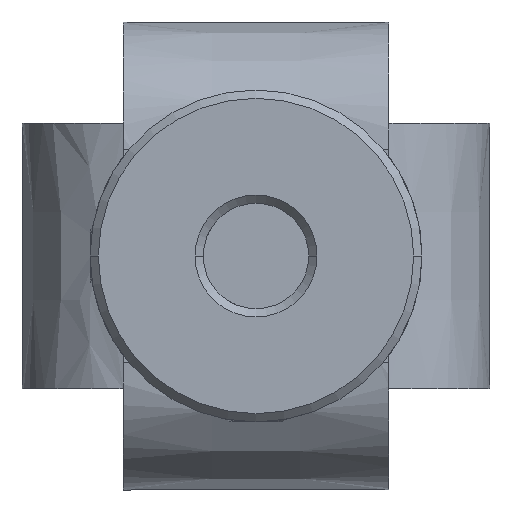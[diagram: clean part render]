
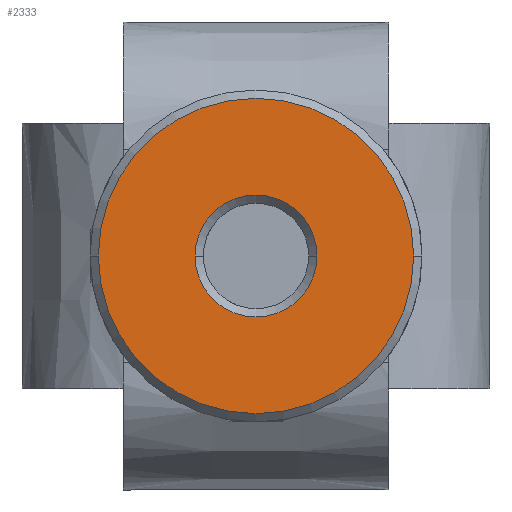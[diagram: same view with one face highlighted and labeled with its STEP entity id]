
A CAD part, front view. The second image highlights one B-rep face of the part: STEP entity #2333.
In plain terms, the highlighted planar face has unit normal (0, -1, 0).
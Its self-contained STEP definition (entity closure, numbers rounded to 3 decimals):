
#53 = CARTESIAN_POINT ( 'NONE',  ( 0., -35.24, 0. ) ) ;
#134 = CIRCLE ( 'NONE', #483, 9.5 ) ;
#251 = DIRECTION ( 'NONE',  ( 0., 1., 0. ) ) ;
#483 = AXIS2_PLACEMENT_3D ( 'NONE', #2738, #4009, #1507 ) ;
#667 = DIRECTION ( 'NONE',  ( -1., 0., 0. ) ) ;
#834 = ORIENTED_EDGE ( 'NONE', *, *, #4651, .T. ) ;
#1103 = CIRCLE ( 'NONE', #7228, 9.5 ) ;
#1426 = CARTESIAN_POINT ( 'NONE',  ( 0., -35.24, 0. ) ) ;
#1507 = DIRECTION ( 'NONE',  ( -1., 0., 0. ) ) ;
#1522 = VERTEX_POINT ( 'NONE', #1953 ) ;
#1679 = VERTEX_POINT ( 'NONE', #7586 ) ;
#1773 = PLANE ( 'NONE',  #2868 ) ;
#1777 = EDGE_LOOP ( 'NONE', ( #834, #4755 ) ) ;
#1947 = CARTESIAN_POINT ( 'NONE',  ( -3.675, -35.24, 0. ) ) ;
#1949 = EDGE_CURVE ( 'NONE', #7474, #6320, #5006, .T. ) ;
#1953 = CARTESIAN_POINT ( 'NONE',  ( -9.5, -35.24, 0. ) ) ;
#1974 = CARTESIAN_POINT ( 'NONE',  ( 0., -35.24, 0. ) ) ;
#2057 = AXIS2_PLACEMENT_3D ( 'NONE', #1426, #251, #3202 ) ;
#2160 = FACE_OUTER_BOUND ( 'NONE', #4232, .T. ) ;
#2333 = ADVANCED_FACE ( 'NONE', ( #5361, #2160 ), #1773, .T. ) ;
#2738 = CARTESIAN_POINT ( 'NONE',  ( 0., -35.24, 0. ) ) ;
#2868 = AXIS2_PLACEMENT_3D ( 'NONE', #53, #4261, #667 ) ;
#3118 = DIRECTION ( 'NONE',  ( 0., -1., 0. ) ) ;
#3202 = DIRECTION ( 'NONE',  ( -1., 0., 0. ) ) ;
#4009 = DIRECTION ( 'NONE',  ( 0., -1., 0. ) ) ;
#4033 = ORIENTED_EDGE ( 'NONE', *, *, #6907, .T. ) ;
#4232 = EDGE_LOOP ( 'NONE', ( #5430, #4033 ) ) ;
#4261 = DIRECTION ( 'NONE',  ( 0., -1., 0. ) ) ;
#4378 = DIRECTION ( 'NONE',  ( -1., 0., 0. ) ) ;
#4408 = DIRECTION ( 'NONE',  ( 0., 1., 0. ) ) ;
#4651 = EDGE_CURVE ( 'NONE', #6320, #7474, #5340, .T. ) ;
#4755 = ORIENTED_EDGE ( 'NONE', *, *, #1949, .T. ) ;
#4978 = DIRECTION ( 'NONE',  ( -1., 0., 0. ) ) ;
#5006 = CIRCLE ( 'NONE', #2057, 3.675 ) ;
#5340 = CIRCLE ( 'NONE', #6333, 3.675 ) ;
#5361 = FACE_BOUND ( 'NONE', #1777, .T. ) ;
#5430 = ORIENTED_EDGE ( 'NONE', *, *, #5512, .T. ) ;
#5512 = EDGE_CURVE ( 'NONE', #1679, #1522, #1103, .T. ) ;
#6183 = CARTESIAN_POINT ( 'NONE',  ( 3.675, -35.24, 0. ) ) ;
#6320 = VERTEX_POINT ( 'NONE', #1947 ) ;
#6333 = AXIS2_PLACEMENT_3D ( 'NONE', #1974, #4408, #4978 ) ;
#6664 = CARTESIAN_POINT ( 'NONE',  ( 0., -35.24, 0. ) ) ;
#6907 = EDGE_CURVE ( 'NONE', #1522, #1679, #134, .T. ) ;
#7228 = AXIS2_PLACEMENT_3D ( 'NONE', #6664, #3118, #4378 ) ;
#7474 = VERTEX_POINT ( 'NONE', #6183 ) ;
#7586 = CARTESIAN_POINT ( 'NONE',  ( 9.5, -35.24, 0. ) ) ;
